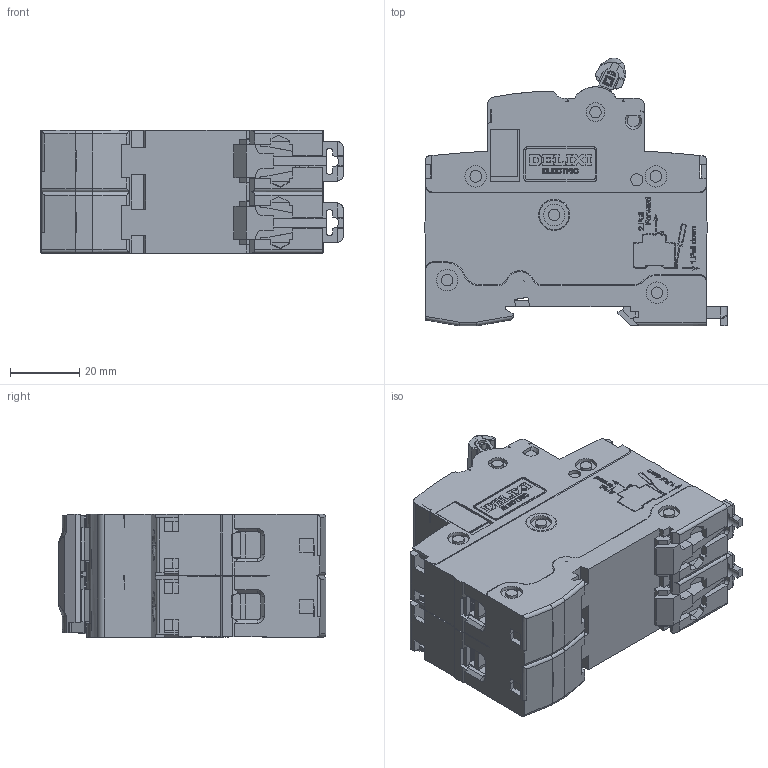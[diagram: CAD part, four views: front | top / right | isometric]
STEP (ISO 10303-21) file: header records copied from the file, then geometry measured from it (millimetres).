
FILE_DESCRIPTION((''),'2;1');
FILE_NAME('1255001900_ASM_SW0002','2019-10-22T',('gang.wang'),(''),'PRO/ENGINEER BY PARAMETRIC TECHNOLOGY CORPORATION, 2015440','PRO/ENGINEER BY PARAMETRIC TECHNOLOGY CORPORATION, 2015440','');
FILE_SCHEMA(('CONFIG_CONTROL_DESIGN'));
Products named in the file (1): 1255001900_ASM_SW0002
Bounding box: 87.18 x 77.08 x 35.6 mm (x, y, z)
Volume: 146116.7 mm3; surface area: 46727.5 mm2
Topology: 1 solids, 6 shells, 6414 faces, 17723 edges, 11436 vertices
Faces by surface type: plane 3646, cylinder 1196, extrusion 1038, cone 184, torus 182, sphere 96, bspline 72
Entity records: 216650 total; most frequent: CARTESIAN_POINT 57082, ORIENTED_EDGE 35254, DIRECTION 29106, EDGE_CURVE 17627, VECTOR 13262, LINE 12224, VERTEX_POINT 11436, AXIS2_PLACEMENT_3D 7922
